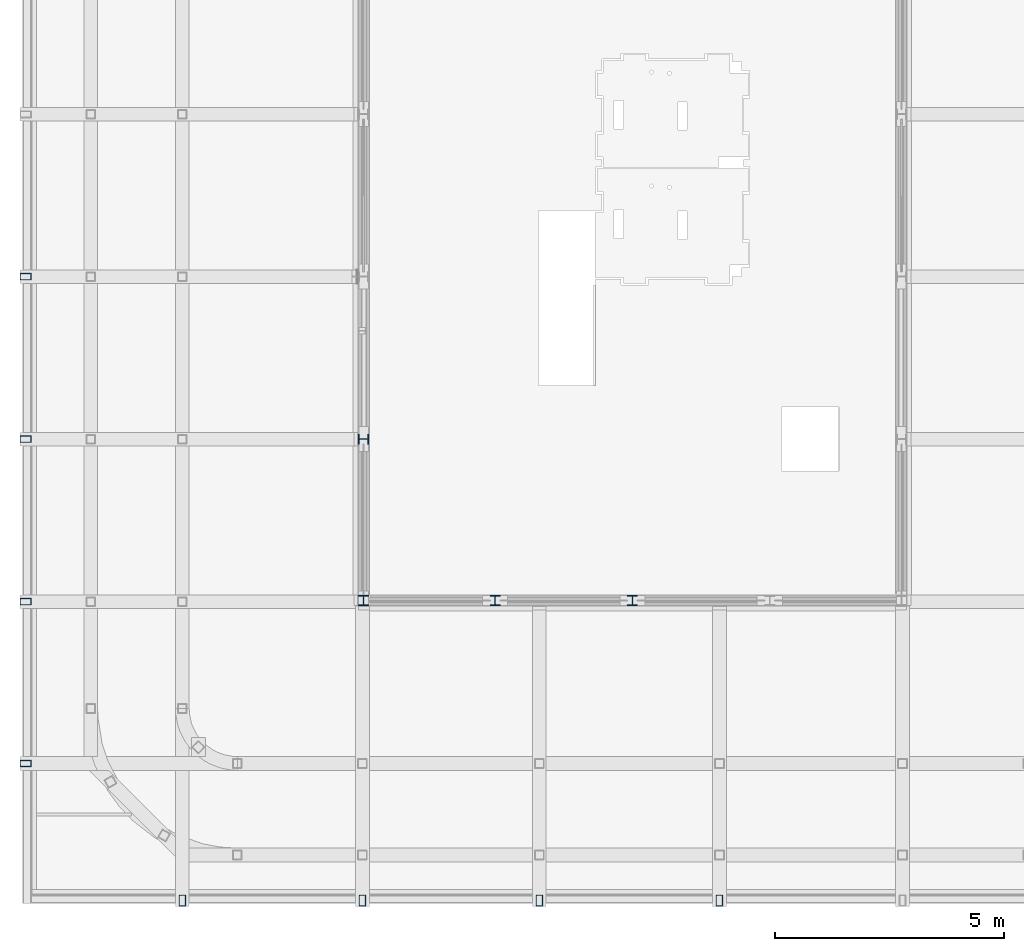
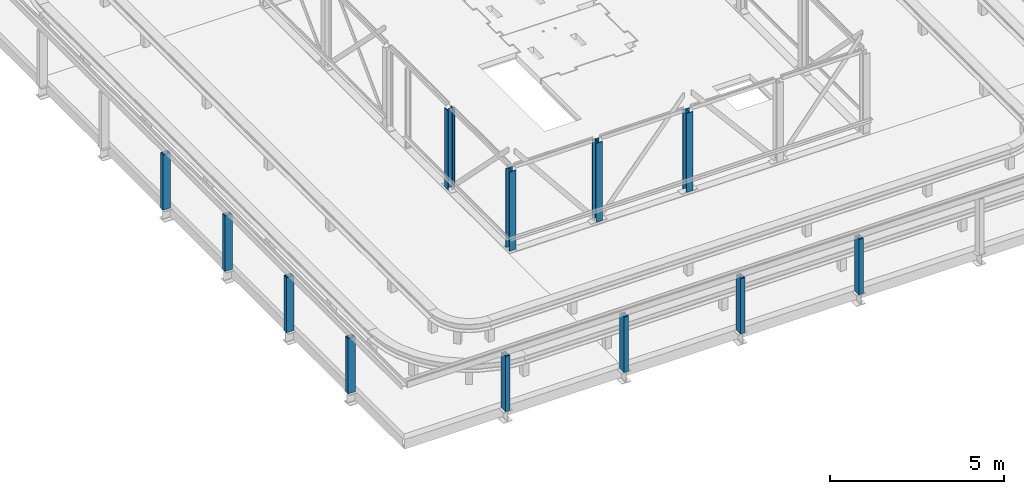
# One storey, part 1 of 27: 12 columns.
"""IFC2X3 building model written with IfcOpenShell, lengths in millimetres."""

from ifc_helpers import new_model, entity, si_unit, converted_unit, derived_unit, direction, frame, frame_2d, origin, place, context, subcontext, project, spatial, polyline, circle_curve, parameter, trimmed, segment, composite_curve, i_section, outline, extrude, source, transform, mapped, material, type_object, type_shapes, element, save


model = new_model("IFC2X3")

# Units and contexts
model_context = context("Model", 3, precision=0.01, world=origin(), true_north=direction((6.12303176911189e-17, 1.0)))
body_context = subcontext(model_context, "Body", "Model", "MODEL_VIEW")
ifc_project = project(units=[si_unit("LENGTHUNIT", "METRE", prefix="MILLI"), si_unit("AREAUNIT", "SQUARE_METRE"), si_unit("VOLUMEUNIT", "CUBIC_METRE"), converted_unit("PLANEANGLEUNIT", "DEGREE", entity("IfcRatioMeasure", 0.0174532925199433), si_unit("PLANEANGLEUNIT", "RADIAN"), dimensions=[0, 0, 0, 0, 0, 0, 0]), si_unit("MASSUNIT", "GRAM", prefix="KILO"), derived_unit("MASSDENSITYUNIT", [(si_unit("MASSUNIT", "GRAM", prefix="KILO"), 1), (si_unit("LENGTHUNIT", "METRE"), -3)]), si_unit("TIMEUNIT", "SECOND"), si_unit("FREQUENCYUNIT", "HERTZ"), si_unit("THERMODYNAMICTEMPERATUREUNIT", "DEGREE_CELSIUS"), derived_unit("THERMALTRANSMITTANCEUNIT", [(si_unit("MASSUNIT", "GRAM", prefix="KILO"), 1), (si_unit("THERMODYNAMICTEMPERATUREUNIT", "KELVIN"), -1), (si_unit("TIMEUNIT", "SECOND"), -3)]), derived_unit("VOLUMETRICFLOWRATEUNIT", [(si_unit("LENGTHUNIT", "METRE"), 3), (si_unit("TIMEUNIT", "SECOND"), -1)]), si_unit("ELECTRICCURRENTUNIT", "AMPERE"), si_unit("ELECTRICVOLTAGEUNIT", "VOLT"), si_unit("POWERUNIT", "WATT"), si_unit("FORCEUNIT", "NEWTON", prefix="KILO"), si_unit("ILLUMINANCEUNIT", "LUX"), si_unit("LUMINOUSFLUXUNIT", "LUMEN"), si_unit("LUMINOUSINTENSITYUNIT", "CANDELA"), derived_unit("USERDEFINED", [(si_unit("MASSUNIT", "GRAM", prefix="KILO"), -1), (si_unit("LENGTHUNIT", "METRE"), -2), (si_unit("TIMEUNIT", "SECOND"), 3), (si_unit("LUMINOUSFLUXUNIT", "LUMEN"), 1)]), derived_unit("LINEARVELOCITYUNIT", [(si_unit("LENGTHUNIT", "METRE"), 1), (si_unit("TIMEUNIT", "SECOND"), -1)]), si_unit("PRESSUREUNIT", "PASCAL"), derived_unit("USERDEFINED", [(si_unit("LENGTHUNIT", "METRE"), -2), (si_unit("MASSUNIT", "GRAM", prefix="KILO"), 1), (si_unit("TIMEUNIT", "SECOND"), -2)])], contexts=[model_context])

# Site, building, storey
site_placement = place(None, origin())
site = spatial("IfcSite", under=ifc_project, at=site_placement, Name="Default", CompositionType="ELEMENT")
building_placement = place(site_placement, origin())
building = spatial("IfcBuilding", under=site, at=building_placement, Name="niet gebruiken", CompositionType="ELEMENT")
storey_placement = place(building_placement, frame((0.0, 0.0, 187640.0)))
storey = spatial("IfcBuildingStorey", under=building, at=storey_placement, Name="59 negenenvijftigste verdieping", CompositionType="ELEMENT", Elevation=187640.0)

# Columns
ifc_material = material(Name="NLRS_h2_staal")
column_type_1 = type_object("IfcColumnType", Name="kolom HEB 220", PredefinedType="COLUMN", material=ifc_material)
shared_shape_1 = source(origin(), body_context, "Body", "SweptSolid", [
    extrude(i_section(OverallWidth=220.000000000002, OverallDepth=219.999999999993, WebThickness=9.49999999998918, FlangeThickness=16.0000000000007, FilletRadius=17.9999999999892, at=frame_2d((0.0, 8.66862137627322e-12), x_axis=(0.0, 1.0))), frame((135875.0, 10425.0, 187635.0), z_axis=(0.0, 0.0, 1.0), x_axis=(0.0, -1.0, 0.0)), (0.0, 0.0, 1.0), 2775.00000000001),
])
type_shapes(column_type_1, [shared_shape_1])
column_1_placement = place(storey_placement, frame((0.0, 0.0, -187640.0)))
element("IfcColumn", 1, at=column_1_placement, inside=storey, type_object=column_type_1, material=ifc_material, Name="NLRS_28.11_SCO_TLB_stalen kolom HEB_gen:kolom HEB 220", ObjectType="kolom HEB 220", context=body_context, shape_type="MappedRepresentation", body=[
    mapped(shared_shape_1, transform((0.0, 0.0, 0.0), scale=1.0)),
])
column_type_2 = type_object("IfcColumnType", Name="kolom HEB 220", PredefinedType="COLUMN", material=ifc_material)
shared_shape_2 = source(origin(), body_context, "Body", "SweptSolid", [
    extrude(i_section(OverallWidth=220.000000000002, OverallDepth=219.999999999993, WebThickness=9.49999999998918, FlangeThickness=16.0000000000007, FilletRadius=17.9999999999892, at=frame_2d((0.0, 8.66862137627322e-12), x_axis=(0.0, 1.0))), frame((141750.0, 10425.0, 187635.0), z_axis=(0.0, 0.0, 1.0), x_axis=(0.0, -1.0, 0.0)), (0.0, 0.0, 1.0), 2775.00000000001),
])
type_shapes(column_type_2, [shared_shape_2])
column_2_placement = place(storey_placement, frame((0.0, 0.0, -187640.0)))
element("IfcColumn", 2, at=column_2_placement, inside=storey, type_object=column_type_2, material=ifc_material, Name="NLRS_28.11_SCO_TLB_stalen kolom HEB_gen:kolom HEB 220", ObjectType="kolom HEB 220", context=body_context, shape_type="MappedRepresentation", body=[
    mapped(shared_shape_2, transform((0.0, 0.0, 0.0), scale=1.0)),
])
column_type_3 = type_object("IfcColumnType", Name="kolom HEB 220", PredefinedType="COLUMN", material=ifc_material)
shared_shape_3 = source(origin(), body_context, "Body", "SweptSolid", [
    extrude(i_section(OverallWidth=220.000000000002, OverallDepth=219.999999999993, WebThickness=9.49999999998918, FlangeThickness=16.0000000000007, FilletRadius=17.9999999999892, at=frame_2d((-2.16715534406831e-12, -2.59916532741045e-11), x_axis=(0.0, 1.0))), frame((138750.0, 10425.0, 187635.0), z_axis=(0.0, 0.0, 1.0), x_axis=(0.0, -1.0, 0.0)), (0.0, 0.0, 1.0), 2775.00000000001),
])
type_shapes(column_type_3, [shared_shape_3])
column_3_placement = place(storey_placement, frame((0.0, 0.0, -187640.0)))
element("IfcColumn", 3, at=column_3_placement, inside=storey, type_object=column_type_3, material=ifc_material, Name="NLRS_28.11_SCO_TLB_stalen kolom HEB_gen:kolom HEB 220", ObjectType="kolom HEB 220", context=body_context, shape_type="MappedRepresentation", body=[
    mapped(shared_shape_3, transform((0.0, 0.0, 0.0), scale=1.0)),
])
column_type_4 = type_object("IfcColumnType", Name="kolom HEB 220", PredefinedType="COLUMN", material=ifc_material)
shared_shape_4 = source(origin(), body_context, "Body", "SweptSolid", [
    extrude(i_section(OverallWidth=220.0, OverallDepth=219.999999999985, WebThickness=9.50000000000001, FlangeThickness=15.9999999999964, FilletRadius=17.9999999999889, at=frame_2d((-6.49436060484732e-12, 0.0), x_axis=(1.0, 0.0))), frame((135875.0, 13950.0, 187635.0), z_axis=(0.0, 0.0, 1.0), x_axis=(0.0, -1.0, 0.0)), (0.0, 0.0, 1.0), 2775.00000000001),
])
type_shapes(column_type_4, [shared_shape_4])
column_4_placement = place(storey_placement, frame((0.0, 0.0, -187640.0)))
element("IfcColumn", 4, at=column_4_placement, inside=storey, type_object=column_type_4, material=ifc_material, Name="NLRS_28.11_SCO_TLB_stalen kolom HEB_gen:kolom HEB 220", ObjectType="kolom HEB 220", context=body_context, shape_type="MappedRepresentation", body=[
    mapped(shared_shape_4, transform((0.0, 0.0, 0.0), scale=1.0)),
])
column_type_5 = type_object("IfcColumnType", Name="kolom buisprofiel rechthoekig RHSH_250x150x16", PredefinedType="COLUMN", material=ifc_material)
shared_shape_5 = source(origin(), body_context, "Body", "SweptSolid", [
    extrude(outline(polyline([(-125.0, -75.0), (125.0, -75.0), (125.0, 75.0), (-125.0, 75.0), (-125.0, -75.0)]), holes=[composite_curve([segment(trimmed(circle_curve(frame_2d((-96.5000000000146, -46.5), x_axis=(0.0, 1.0)), 12.5), [parameter(90.0)], [parameter(180.0)], True, "PARAMETER"), False, "CONTINUOUS"), segment(polyline([(-109.0, -46.5), (-109.0, 46.5)]), True, "CONTINUOUS"), segment(trimmed(circle_curve(frame_2d((-96.5000000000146, 46.5), x_axis=(0.0, 1.0)), 12.5), [parameter(360.0)], [parameter(89.9999999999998)], True, "PARAMETER"), False, "CONTINUOUS"), segment(polyline([(-96.5, 59.0), (96.4999999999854, 59.0)]), True, "CONTINUOUS"), segment(trimmed(circle_curve(frame_2d((96.4999999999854, 46.5), x_axis=(0.0, 1.0)), 12.5), [parameter(270.0)], [parameter(360.0)], True, "PARAMETER"), False, "CONTINUOUS"), segment(polyline([(109.0, 46.5), (109.0, -46.5)]), True, "CONTINUOUS"), segment(trimmed(circle_curve(frame_2d((96.4999999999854, -46.5), x_axis=(0.0, 1.0)), 12.5), [parameter(180.0)], [parameter(270.0)], True, "PARAMETER"), False, "CONTINUOUS"), segment(polyline([(96.4999999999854, -59.0), (-96.5, -59.0)]), True, "CONTINUOUS")], self_intersect=False)]), frame((128495.0, 17500.0, 187350.0)), (0.0, 0.0, 1.0), 1940.00000000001),
])
type_shapes(column_type_5, [shared_shape_5])
column_5_placement = place(storey_placement, frame((0.0, 0.0, -187640.0)))
element("IfcColumn", 5, at=column_5_placement, inside=storey, type_object=column_type_5, material=ifc_material, Name="NLRS_28.11_SCO_TLB_stalen kolom buisprofiel rechthoekig_gen:kolom buisprofiel rechthoekig RHSH_250x150x16", ObjectType="kolom buisprofiel rechthoekig RHSH_250x150x16", context=body_context, shape_type="MappedRepresentation", body=[
    mapped(shared_shape_5, transform((0.0, 0.0, 0.0), scale=1.0)),
])
column_type_6 = type_object("IfcColumnType", Name="kolom buisprofiel rechthoekig RHSH_250x150x16", PredefinedType="COLUMN", material=ifc_material)
shared_shape_6 = source(origin(), body_context, "Body", "SweptSolid", [
    extrude(outline(polyline([(-125.0, -75.0), (125.0, -75.0), (125.0, 75.0), (-125.0, 75.0), (-125.0, -75.0)]), holes=[composite_curve([segment(trimmed(circle_curve(frame_2d((-96.5000000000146, -46.5), x_axis=(0.0, 1.0)), 12.5), [parameter(90.0)], [parameter(180.0)], True, "PARAMETER"), False, "CONTINUOUS"), segment(polyline([(-109.0, -46.5), (-109.0, 46.5)]), True, "CONTINUOUS"), segment(trimmed(circle_curve(frame_2d((-96.5000000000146, 46.5), x_axis=(0.0, 1.0)), 12.5), [parameter(360.0)], [parameter(89.9999999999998)], True, "PARAMETER"), False, "CONTINUOUS"), segment(polyline([(-96.5, 59.0), (96.4999999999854, 59.0)]), True, "CONTINUOUS"), segment(trimmed(circle_curve(frame_2d((96.4999999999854, 46.5), x_axis=(0.0, 1.0)), 12.5), [parameter(270.0)], [parameter(360.0)], True, "PARAMETER"), False, "CONTINUOUS"), segment(polyline([(109.0, 46.5), (109.0, -46.5)]), True, "CONTINUOUS"), segment(trimmed(circle_curve(frame_2d((96.4999999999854, -46.5), x_axis=(0.0, 1.0)), 12.5), [parameter(180.0)], [parameter(270.0)], True, "PARAMETER"), False, "CONTINUOUS"), segment(polyline([(96.4999999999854, -59.0), (-96.5, -59.0)]), True, "CONTINUOUS")], self_intersect=False)]), frame((128495.0, 13950.0, 187350.0)), (0.0, 0.0, 1.0), 1940.00000000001),
])
type_shapes(column_type_6, [shared_shape_6])
column_6_placement = place(storey_placement, frame((0.0, 0.0, -187640.0)))
element("IfcColumn", 6, at=column_6_placement, inside=storey, type_object=column_type_6, material=ifc_material, Name="NLRS_28.11_SCO_TLB_stalen kolom buisprofiel rechthoekig_gen:kolom buisprofiel rechthoekig RHSH_250x150x16", ObjectType="kolom buisprofiel rechthoekig RHSH_250x150x16", context=body_context, shape_type="MappedRepresentation", body=[
    mapped(shared_shape_6, transform((0.0, 0.0, 0.0), scale=1.0)),
])
column_type_7 = type_object("IfcColumnType", Name="kolom buisprofiel rechthoekig RHSH_250x150x16", PredefinedType="COLUMN", material=ifc_material)
shared_shape_7 = source(origin(), body_context, "Body", "SweptSolid", [
    extrude(outline(polyline([(-125.0, -75.0), (125.0, -75.0), (125.0, 75.0), (-125.0, 75.0), (-125.0, -75.0)]), holes=[composite_curve([segment(trimmed(circle_curve(frame_2d((-96.5000000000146, -46.5), x_axis=(0.0, 1.0)), 12.5), [parameter(90.0)], [parameter(180.0)], True, "PARAMETER"), False, "CONTINUOUS"), segment(polyline([(-109.0, -46.5), (-109.0, 46.5000000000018)]), True, "CONTINUOUS"), segment(trimmed(circle_curve(frame_2d((-96.5000000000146, 46.5000000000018), x_axis=(0.0, 1.0)), 12.5), [parameter(360.0)], [parameter(89.9999999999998)], True, "PARAMETER"), False, "CONTINUOUS"), segment(polyline([(-96.5, 59.0), (96.4999999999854, 59.0)]), True, "CONTINUOUS"), segment(trimmed(circle_curve(frame_2d((96.4999999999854, 46.5000000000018), x_axis=(0.0, 1.0)), 12.5), [parameter(270.0)], [parameter(360.0)], True, "PARAMETER"), False, "CONTINUOUS"), segment(polyline([(109.0, 46.5000000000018), (109.0, -46.5)]), True, "CONTINUOUS"), segment(trimmed(circle_curve(frame_2d((96.4999999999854, -46.5), x_axis=(0.0, 1.0)), 12.5), [parameter(180.0)], [parameter(270.0)], True, "PARAMETER"), False, "CONTINUOUS"), segment(polyline([(96.4999999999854, -59.0), (-96.5, -59.0)]), True, "CONTINUOUS")], self_intersect=False)]), frame((128495.0, 10400.3287196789, 187350.0)), (0.0, 0.0, 1.0), 1940.00000000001),
])
type_shapes(column_type_7, [shared_shape_7])
column_7_placement = place(storey_placement, frame((0.0, 0.0, -187640.0)))
element("IfcColumn", 7, at=column_7_placement, inside=storey, type_object=column_type_7, material=ifc_material, Name="NLRS_28.11_SCO_TLB_stalen kolom buisprofiel rechthoekig_gen:kolom buisprofiel rechthoekig RHSH_250x150x16", ObjectType="kolom buisprofiel rechthoekig RHSH_250x150x16", context=body_context, shape_type="MappedRepresentation", body=[
    mapped(shared_shape_7, transform((0.0, 0.0, 0.0), scale=1.0)),
])
column_type_8 = type_object("IfcColumnType", Name="kolom buisprofiel rechthoekig RHSH_250x150x16", PredefinedType="COLUMN", material=ifc_material)
shared_shape_8 = source(origin(), body_context, "Body", "SweptSolid", [
    extrude(outline(polyline([(-125.0, -75.0), (125.0, -75.0), (125.0, 75.0), (-125.0, 75.0), (-125.0, -75.0)]), holes=[composite_curve([segment(trimmed(circle_curve(frame_2d((-96.5000000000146, -46.5000000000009), x_axis=(0.0, 1.0)), 12.5), [parameter(90.0)], [parameter(180.0)], True, "PARAMETER"), False, "CONTINUOUS"), segment(polyline([(-109.0, -46.5000000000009), (-109.0, 46.5)]), True, "CONTINUOUS"), segment(trimmed(circle_curve(frame_2d((-96.5000000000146, 46.5), x_axis=(0.0, 1.0)), 12.5), [parameter(360.0)], [parameter(89.9999999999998)], True, "PARAMETER"), False, "CONTINUOUS"), segment(polyline([(-96.5, 59.0), (96.4999999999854, 59.0)]), True, "CONTINUOUS"), segment(trimmed(circle_curve(frame_2d((96.4999999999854, 46.5), x_axis=(0.0, 1.0)), 12.5), [parameter(270.0)], [parameter(360.0)], True, "PARAMETER"), False, "CONTINUOUS"), segment(polyline([(109.0, 46.4999999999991), (109.0, -46.5000000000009)]), True, "CONTINUOUS"), segment(trimmed(circle_curve(frame_2d((96.4999999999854, -46.5000000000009), x_axis=(0.0, 1.0)), 12.5), [parameter(180.0)], [parameter(270.0)], True, "PARAMETER"), False, "CONTINUOUS"), segment(polyline([(96.4999999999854, -59.0), (-96.5, -59.0)]), True, "CONTINUOUS")], self_intersect=False)]), frame((128495.0, 6865.0, 187350.0)), (0.0, 0.0, 1.0), 1940.00000000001),
])
type_shapes(column_type_8, [shared_shape_8])
column_8_placement = place(storey_placement, frame((0.0, 0.0, -187640.0)))
element("IfcColumn", 8, at=column_8_placement, inside=storey, type_object=column_type_8, material=ifc_material, Name="NLRS_28.11_SCO_TLB_stalen kolom buisprofiel rechthoekig_gen:kolom buisprofiel rechthoekig RHSH_250x150x16", ObjectType="kolom buisprofiel rechthoekig RHSH_250x150x16", context=body_context, shape_type="MappedRepresentation", body=[
    mapped(shared_shape_8, transform((0.0, 0.0, 0.0), scale=1.0)),
])
column_type_9 = type_object("IfcColumnType", Name="kolom buisprofiel rechthoekig RHSH_250x150x16", PredefinedType="COLUMN", material=ifc_material)
shared_shape_9 = source(origin(), body_context, "Body", "SweptSolid", [
    extrude(outline(polyline([(-125.0, -75.0), (125.0, -75.0), (125.0, 75.0), (-125.0, 75.0), (-125.0, -75.0)]), holes=[composite_curve([segment(trimmed(circle_curve(frame_2d((-96.5, -46.4999999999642), x_axis=(0.0, 1.0)), 12.5), [parameter(90.0)], [parameter(180.0)], True, "PARAMETER"), False, "CONTINUOUS"), segment(polyline([(-109.0, -46.4999999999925), (-109.0, 46.5000000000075)]), True, "CONTINUOUS"), segment(trimmed(circle_curve(frame_2d((-96.499999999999, 46.5000000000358), x_axis=(0.0, 1.0)), 12.5), [parameter(360.0)], [parameter(89.9999999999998)], True, "PARAMETER"), False, "CONTINUOUS"), segment(polyline([(-96.4999999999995, 59.0), (96.5000000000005, 59.0)]), True, "CONTINUOUS"), segment(trimmed(circle_curve(frame_2d((96.500000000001, 46.5000000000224), x_axis=(0.0, 1.0)), 12.5), [parameter(270.0)], [parameter(360.0)], True, "PARAMETER"), False, "CONTINUOUS"), segment(polyline([(109.0, 46.5000000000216), (109.0, -46.4999999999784)]), True, "CONTINUOUS"), segment(trimmed(circle_curve(frame_2d((96.5, -46.4999999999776), x_axis=(0.0, 1.0)), 12.5), [parameter(180.0)], [parameter(270.0)], True, "PARAMETER"), False, "CONTINUOUS"), segment(polyline([(96.4999999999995, -59.0), (-96.5000000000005, -59.0)]), True, "CONTINUOUS")], self_intersect=False)]), frame((131916.666666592, 3870.0, 187350.0), z_axis=(0.0, 0.0, 1.0), x_axis=(0.0, 1.0, 0.0)), (0.0, 0.0, 1.0), 1940.00000000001),
])
type_shapes(column_type_9, [shared_shape_9])
column_9_placement = place(storey_placement, frame((0.0, 0.0, -187640.0)))
element("IfcColumn", 9, at=column_9_placement, inside=storey, type_object=column_type_9, material=ifc_material, Name="NLRS_28.11_SCO_TLB_stalen kolom buisprofiel rechthoekig_gen:kolom buisprofiel rechthoekig RHSH_250x150x16", ObjectType="kolom buisprofiel rechthoekig RHSH_250x150x16", context=body_context, shape_type="MappedRepresentation", body=[
    mapped(shared_shape_9, transform((0.0, 0.0, 0.0), scale=1.0)),
])
column_type_10 = type_object("IfcColumnType", Name="kolom buisprofiel rechthoekig RHSH_250x150x16", PredefinedType="COLUMN", material=ifc_material)
shared_shape_10 = source(origin(), body_context, "Body", "SweptSolid", [
    extrude(outline(polyline([(-125.0, -75.0), (125.0, -75.0), (125.0, 75.0), (-125.0, 75.0), (-125.0, -75.0)]), holes=[composite_curve([segment(trimmed(circle_curve(frame_2d((-96.5000000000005, -46.4999999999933), x_axis=(0.0, 1.0)), 12.5), [parameter(90.0)], [parameter(180.0)], True, "PARAMETER"), False, "CONTINUOUS"), segment(polyline([(-109.0, -46.4999999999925), (-109.0, 46.5000000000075)]), True, "CONTINUOUS"), segment(trimmed(circle_curve(frame_2d((-96.4999999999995, 46.5000000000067), x_axis=(0.0, 1.0)), 12.5), [parameter(360.0)], [parameter(89.9999999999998)], True, "PARAMETER"), False, "CONTINUOUS"), segment(polyline([(-96.4999999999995, 59.0), (96.5000000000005, 59.0)]), True, "CONTINUOUS"), segment(trimmed(circle_curve(frame_2d((96.5000000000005, 46.4999999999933), x_axis=(0.0, 1.0)), 12.5), [parameter(270.0)], [parameter(360.0)], True, "PARAMETER"), False, "CONTINUOUS"), segment(polyline([(109.0, 46.4999999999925), (109.0, -46.5000000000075)]), True, "CONTINUOUS"), segment(trimmed(circle_curve(frame_2d((96.4999999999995, -46.5000000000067), x_axis=(0.0, 1.0)), 12.5), [parameter(180.0)], [parameter(270.0)], True, "PARAMETER"), False, "CONTINUOUS"), segment(polyline([(96.4999999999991, -59.0), (-96.5, -59.0)]), True, "CONTINUOUS")], self_intersect=False)]), frame((135850.0, 3870.0, 187350.0), z_axis=(0.0, 0.0, 1.0), x_axis=(0.0, 1.0, 0.0)), (0.0, 0.0, 1.0), 1940.00000000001),
])
type_shapes(column_type_10, [shared_shape_10])
column_10_placement = place(storey_placement, frame((0.0, 0.0, -187640.0)))
element("IfcColumn", 10, at=column_10_placement, inside=storey, type_object=column_type_10, material=ifc_material, Name="NLRS_28.11_SCO_TLB_stalen kolom buisprofiel rechthoekig_gen:kolom buisprofiel rechthoekig RHSH_250x150x16", ObjectType="kolom buisprofiel rechthoekig RHSH_250x150x16", context=body_context, shape_type="MappedRepresentation", body=[
    mapped(shared_shape_10, transform((0.0, 0.0, 0.0), scale=1.0)),
])
column_type_11 = type_object("IfcColumnType", Name="kolom buisprofiel rechthoekig RHSH_250x150x16", PredefinedType="COLUMN", material=ifc_material)
shared_shape_11 = source(origin(), body_context, "Body", "SweptSolid", [
    extrude(outline(polyline([(-125.0, -75.0), (125.0, -75.0), (125.0, 75.0), (-125.0, 75.0), (-125.0, -75.0)]), holes=[composite_curve([segment(trimmed(circle_curve(frame_2d((-96.5, -46.4999999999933), x_axis=(0.0, 1.0)), 12.5), [parameter(90.0)], [parameter(180.0)], True, "PARAMETER"), False, "CONTINUOUS"), segment(polyline([(-109.0, -46.4999999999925), (-109.0, 46.4999999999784)]), True, "CONTINUOUS"), segment(trimmed(circle_curve(frame_2d((-96.499999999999, 46.5000000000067), x_axis=(0.0, 1.0)), 12.5), [parameter(360.0)], [parameter(89.9999999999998)], True, "PARAMETER"), False, "CONTINUOUS"), segment(polyline([(-96.4999999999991, 59.0), (96.5000000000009, 59.0)]), True, "CONTINUOUS"), segment(trimmed(circle_curve(frame_2d((96.500000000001, 46.4999999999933), x_axis=(0.0, 1.0)), 12.5), [parameter(270.0)], [parameter(360.0)], True, "PARAMETER"), False, "CONTINUOUS"), segment(polyline([(109.0, 46.4999999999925), (109.0, -46.5000000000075)]), True, "CONTINUOUS"), segment(trimmed(circle_curve(frame_2d((96.5, -46.5000000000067), x_axis=(0.0, 1.0)), 12.5), [parameter(180.0)], [parameter(270.0)], True, "PARAMETER"), False, "CONTINUOUS"), segment(polyline([(96.4999999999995, -59.0), (-96.5000000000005, -59.0)]), True, "CONTINUOUS")], self_intersect=False)]), frame((139716.666666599, 3870.0, 187350.0), z_axis=(0.0, 0.0, 1.0), x_axis=(0.0, 1.0, 0.0)), (0.0, 0.0, 1.0), 1940.00000000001),
])
type_shapes(column_type_11, [shared_shape_11])
column_11_placement = place(storey_placement, frame((0.0, 0.0, -187640.0)))
element("IfcColumn", 11, at=column_11_placement, inside=storey, type_object=column_type_11, material=ifc_material, Name="NLRS_28.11_SCO_TLB_stalen kolom buisprofiel rechthoekig_gen:kolom buisprofiel rechthoekig RHSH_250x150x16", ObjectType="kolom buisprofiel rechthoekig RHSH_250x150x16", context=body_context, shape_type="MappedRepresentation", body=[
    mapped(shared_shape_11, transform((0.0, 0.0, 0.0), scale=1.0)),
])
column_type_12 = type_object("IfcColumnType", Name="kolom buisprofiel rechthoekig RHSH_250x150x16", PredefinedType="COLUMN", material=ifc_material)
shared_shape_12 = source(origin(), body_context, "Body", "SweptSolid", [
    extrude(outline(polyline([(-125.0, -75.0), (125.0, -75.0), (125.0, 75.0), (-125.0, 75.0), (-125.0, -75.0)]), holes=[composite_curve([segment(trimmed(circle_curve(frame_2d((-96.500000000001, -46.4999999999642), x_axis=(0.0, 1.0)), 12.5), [parameter(90.0)], [parameter(180.0)], True, "PARAMETER"), False, "CONTINUOUS"), segment(polyline([(-109.0, -46.4999999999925), (-109.0, 46.5000000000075)]), True, "CONTINUOUS"), segment(trimmed(circle_curve(frame_2d((-96.4999999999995, 46.5000000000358), x_axis=(0.0, 1.0)), 12.5), [parameter(360.0)], [parameter(89.9999999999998)], True, "PARAMETER"), False, "CONTINUOUS"), segment(polyline([(-96.5, 59.0), (96.5, 59.0)]), True, "CONTINUOUS"), segment(trimmed(circle_curve(frame_2d((96.5000000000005, 46.5000000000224), x_axis=(0.0, 1.0)), 12.5), [parameter(270.0)], [parameter(360.0)], True, "PARAMETER"), False, "CONTINUOUS"), segment(polyline([(109.0, 46.5000000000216), (109.0, -46.4999999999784)]), True, "CONTINUOUS"), segment(trimmed(circle_curve(frame_2d((96.499999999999, -46.4999999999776), x_axis=(0.0, 1.0)), 12.5), [parameter(180.0)], [parameter(270.0)], True, "PARAMETER"), False, "CONTINUOUS"), segment(polyline([(96.4999999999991, -59.0), (-96.5000000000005, -59.0)]), True, "CONTINUOUS")], self_intersect=False)]), frame((143650.0, 3870.0, 187350.0), z_axis=(0.0, 0.0, 1.0), x_axis=(0.0, 1.0, 0.0)), (0.0, 0.0, 1.0), 1940.00000000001),
])
type_shapes(column_type_12, [shared_shape_12])
column_12_placement = place(storey_placement, frame((0.0, 0.0, -187640.0)))
element("IfcColumn", 12, at=column_12_placement, inside=storey, type_object=column_type_12, material=ifc_material, Name="NLRS_28.11_SCO_TLB_stalen kolom buisprofiel rechthoekig_gen:kolom buisprofiel rechthoekig RHSH_250x150x16", ObjectType="kolom buisprofiel rechthoekig RHSH_250x150x16", context=body_context, shape_type="MappedRepresentation", body=[
    mapped(shared_shape_12, transform((0.0, 0.0, 0.0), scale=1.0)),
])

save(model, "model.ifc")
